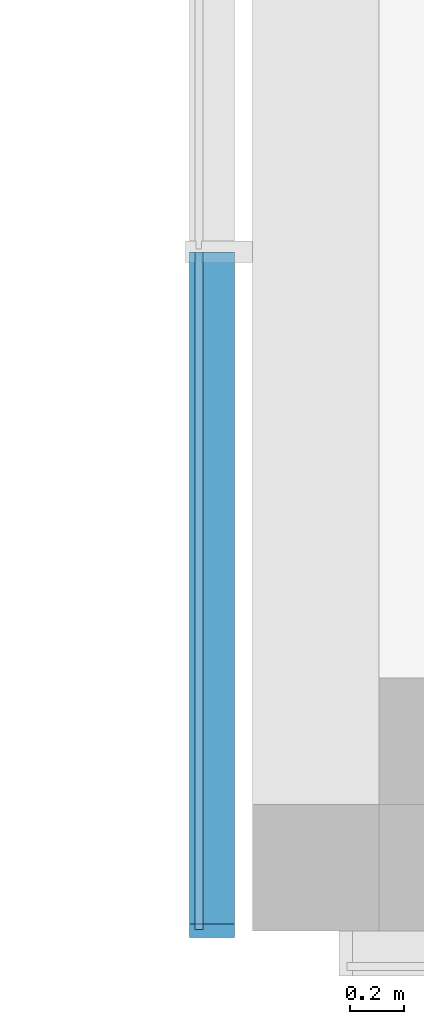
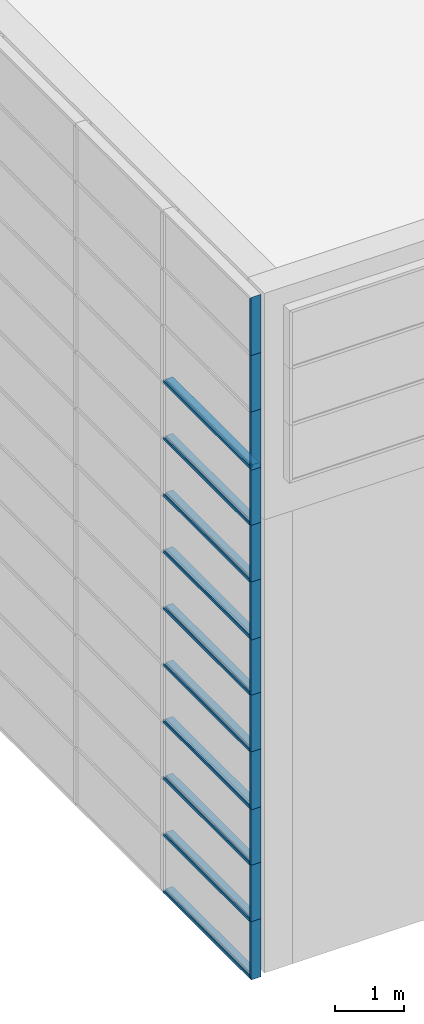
# One storey, part 6 of 105: 25 building element parts, 4 elements without a shape of their own.
"""IFC4 building model written with IfcOpenShell, lengths in millimetres."""

from ifc_helpers import new_model, entity, si_unit, converted_unit, derived_unit, direction, frame, origin_with_axes, place, context, subcontext, project, spatial, triangles, material, element, aggregate, save


model = new_model("IFC4")

# Units and contexts
model_context = context("Model", 3, precision=1e-05, world=origin_with_axes(), true_north=direction((0.0, 1.0)))
body_context = subcontext(model_context, "Body", "Model", "MODEL_VIEW")
ifc_project = project(units=[si_unit("LENGTHUNIT", "METRE", prefix="MILLI"), si_unit("AREAUNIT", "SQUARE_METRE"), si_unit("VOLUMEUNIT", "CUBIC_METRE"), converted_unit("PLANEANGLEUNIT", "DEGREE", entity("IfcLengthMeasure", 0.017453), si_unit("PLANEANGLEUNIT", "RADIAN"), dimensions=[0, 0, 0, 0, 0, 0, 0]), si_unit("SOLIDANGLEUNIT", "STERADIAN"), si_unit("MASSUNIT", "GRAM"), si_unit("TIMEUNIT", "SECOND"), si_unit("THERMODYNAMICTEMPERATUREUNIT", "DEGREE_CELSIUS"), si_unit("LUMINOUSINTENSITYUNIT", "LUMEN"), si_unit("POWERUNIT", "WATT"), derived_unit("THERMALTRANSMITTANCEUNIT", [(si_unit("POWERUNIT", "WATT"), 1), (si_unit("THERMODYNAMICTEMPERATUREUNIT", "KELVIN"), -1), (si_unit("AREAUNIT", "SQUARE_METRE"), -1)])], contexts=[model_context])

# Site, building, storey
site_placement = place(None, origin_with_axes())
site = spatial("IfcSite", under=ifc_project, at=site_placement, Name="Default Site", CompositionType="ELEMENT")
building_placement = place(site_placement, origin_with_axes())
building = spatial("IfcBuilding", under=site, at=building_placement, Name="Default Building", CompositionType="ELEMENT")
storey_placement = place(building_placement, origin_with_axes())
storey = spatial("IfcBuildingStorey", under=building, at=storey_placement, Name="OG - Story", CompositionType="ELEMENT", Elevation=0.0)

# Curtain wall, building element parts
curtain_wall_1_placement = place(storey_placement, origin_with_axes())
curtain_wall_1 = element("IfcCurtainWall", 1, at=curtain_wall_1_placement, inside=storey, Name="Fassade-003", PredefinedType="NOTDEFINED")
ifc_material = material(Name="Blech")
building_element_part_1_placement = place(curtain_wall_1_placement, frame((31551.391327, -51326.104944, 0.0), z_axis=(0.0, 0.0, 1.0), x_axis=(1.0, 0.0, 0.0)))
building_element_part_1 = element("IfcBuildingElementPart", 2, at=building_element_part_1_placement, material=ifc_material, Name="Blech", PredefinedType="NOTDEFINED", context=body_context, shape_type="Tessellation", body=[
    triangles([(15.0, 1263.158, 25.0), (133.0, 1263.158, 25.0), (15.0, 1263.158, 5.0), (133.0, 1263.158, -24.999), (-14.999, 1263.158, 5.0), (-34.999, 1263.158, -24.999), (-34.999, 1263.158, 25.0), (-14.999, 1263.158, 25.0), (15.0, -1258.157, 5.0), (15.0, -1238.157, 25.0), (133.0, -1238.157, 25.0), (133.0, -1288.157, -24.999), (-34.999, -1288.157, -24.999), (-34.999, -1238.157, 25.0), (-14.999, -1238.157, 25.0), (-14.999, -1258.157, 5.0)], [[1, 2, 3], [3, 2, 4], [3, 4, 5], [5, 4, 6], [5, 6, 7], [5, 7, 8], [3, 9, 10], [3, 10, 1], [10, 11, 2], [10, 2, 1], [2, 11, 12], [2, 12, 4], [4, 12, 13], [4, 13, 6], [6, 13, 14], [6, 14, 7], [8, 7, 14], [8, 14, 15], [15, 16, 5], [15, 5, 8], [5, 16, 9], [5, 9, 3], [16, 9, 12], [16, 12, 13], [16, 13, 14], [16, 14, 15], [11, 12, 9], [11, 9, 10]], closed=False),
])
building_element_part_2_placement = place(curtain_wall_1_placement, frame((31551.391327, -51326.104944, 0.0), z_axis=(0.0, 0.0, 1.0), x_axis=(1.0, 0.0, 0.0)))
building_element_part_2 = element("IfcBuildingElementPart", 3, at=building_element_part_2_placement, material=ifc_material, Name="Blech", PredefinedType="NOTDEFINED", context=body_context, shape_type="Tessellation", body=[
    triangles([(15.0, -1238.157, 1000.0), (133.0, -1238.157, 1000.0), (15.0, -1258.157, 1000.0), (133.0, -1288.157, 1000.0), (-14.999, -1258.157, 1000.0), (-34.999, -1288.157, 1000.0), (-14.999, -1238.157, 1000.0), (-34.999, -1238.157, 1000.0), (15.0, -1258.157, 5.0), (-14.999, -1258.157, 5.0), (-14.999, -1238.157, 25.0), (-34.999, -1238.157, 25.0), (-34.999, -1288.157, -24.999), (133.0, -1288.157, -24.999), (133.0, -1238.157, 25.0), (15.0, -1238.157, 25.0)], [[1, 2, 3], [3, 2, 4], [3, 4, 5], [5, 4, 6], [5, 6, 7], [7, 6, 8], [5, 3, 9], [5, 9, 10], [11, 7, 5], [11, 5, 10], [7, 11, 12], [7, 12, 8], [6, 8, 12], [6, 12, 13], [4, 6, 13], [4, 13, 14], [2, 4, 14], [2, 14, 15], [16, 1, 2], [16, 2, 15], [3, 1, 16], [3, 16, 9], [16, 15, 9], [9, 15, 14], [9, 14, 10], [10, 14, 13], [10, 13, 12], [10, 12, 11]], closed=False),
])
building_element_part_3_placement = place(curtain_wall_1_placement, frame((31551.391327, -51326.104944, 0.0), z_axis=(0.0, 0.0, 1.0), x_axis=(1.0, 0.0, 0.0)))
building_element_part_3 = element("IfcBuildingElementPart", 4, at=building_element_part_3_placement, material=ifc_material, Name="Blech", PredefinedType="NOTDEFINED", context=body_context, shape_type="Tessellation", body=[
    triangles([(-14.999, 1263.158, 1025.0), (-34.999, 1263.158, 1025.0), (-14.999, 1263.158, 1005.0), (-14.999, 1263.158, 995.0), (15.0, 1263.158, 1005.0), (133.0, 1263.158, 1025.0), (15.0, 1263.158, 1025.0), (-34.999, 1263.158, 975.0), (-14.999, 1263.158, 975.0), (15.0, 1263.158, 995.0), (15.0, 1263.158, 975.0), (133.0, 1263.158, 975.0), (15.0, -1238.157, 995.0), (-14.999, -1238.157, 995.0), (-14.999, -1238.157, 975.0), (-34.999, -1238.157, 975.0), (-34.999, -1238.157, 1025.0), (-14.999, -1238.157, 1025.0), (-14.999, -1238.157, 1005.0), (15.0, -1238.157, 1005.0), (15.0, -1238.157, 1025.0), (133.0, -1238.157, 1025.0), (133.0, -1238.157, 975.0), (15.0, -1238.157, 975.0)], [[1, 2, 3], [3, 2, 4], [3, 4, 5], [5, 4, 6], [5, 6, 7], [8, 9, 4], [8, 4, 2], [6, 4, 10], [6, 10, 11], [6, 11, 12], [10, 13, 14], [10, 14, 4], [4, 14, 15], [4, 15, 9], [15, 16, 8], [15, 8, 9], [2, 8, 16], [2, 16, 17], [18, 1, 2], [18, 2, 17], [1, 18, 19], [1, 19, 3], [5, 3, 19], [5, 19, 20], [7, 5, 20], [7, 20, 21], [7, 21, 22], [7, 22, 6], [12, 6, 22], [12, 22, 23], [11, 12, 23], [11, 23, 24], [11, 24, 13], [11, 13, 10], [21, 22, 20], [20, 22, 13], [20, 13, 19], [19, 13, 14], [19, 14, 17], [17, 14, 15], [17, 15, 16], [23, 24, 13], [23, 13, 22], [19, 17, 18]], closed=False),
])
building_element_part_4_placement = place(curtain_wall_1_placement, frame((31551.391327, -51326.104944, 0.0), z_axis=(0.0, 0.0, 1.0), x_axis=(1.0, 0.0, 0.0)))
building_element_part_4 = element("IfcBuildingElementPart", 5, at=building_element_part_4_placement, material=ifc_material, Name="Blech", PredefinedType="NOTDEFINED", context=body_context, shape_type="Tessellation", body=[
    triangles([(15.0, -1238.157, 2000.0), (133.0, -1238.157, 2000.0), (15.0, -1258.157, 2000.0), (133.0, -1288.157, 2000.0), (-14.999, -1258.157, 2000.0), (-34.999, -1288.157, 2000.0), (-14.999, -1238.157, 2000.0), (-34.999, -1238.157, 2000.0), (15.0, -1258.157, 1000.0), (-14.999, -1258.157, 1000.0), (-14.999, -1238.157, 1000.0), (-34.999, -1238.157, 1000.0), (-34.999, -1288.157, 1000.0), (133.0, -1288.157, 1000.0), (133.0, -1238.157, 1000.0), (15.0, -1238.157, 1000.0)], [[1, 2, 3], [3, 2, 4], [3, 4, 5], [5, 4, 6], [5, 6, 7], [7, 6, 8], [5, 3, 9], [5, 9, 10], [11, 7, 5], [11, 5, 10], [7, 11, 12], [7, 12, 8], [13, 6, 8], [13, 8, 12], [14, 4, 6], [14, 6, 13], [15, 2, 4], [15, 4, 14], [16, 1, 2], [16, 2, 15], [3, 1, 16], [3, 16, 9], [16, 15, 9], [9, 15, 14], [9, 14, 10], [10, 14, 13], [10, 13, 11], [11, 13, 12]], closed=False),
])
building_element_part_5_placement = place(curtain_wall_1_placement, frame((31551.391327, -51326.104944, 0.0), z_axis=(0.0, 0.0, 1.0), x_axis=(1.0, 0.0, 0.0)))
building_element_part_5 = element("IfcBuildingElementPart", 6, at=building_element_part_5_placement, material=ifc_material, Name="Blech", PredefinedType="NOTDEFINED", context=body_context, shape_type="Tessellation", body=[
    triangles([(-14.999, 1263.158, 2025.0), (-34.999, 1263.158, 2025.0), (-14.999, 1263.158, 2005.0), (-14.999, 1263.158, 1995.0), (15.0, 1263.158, 2005.0), (133.0, 1263.158, 2025.0), (15.0, 1263.158, 2025.0), (-34.999, 1263.158, 1975.0), (-14.999, 1263.158, 1975.0), (15.0, 1263.158, 1995.0), (15.0, 1263.158, 1975.0), (133.0, 1263.158, 1975.0), (15.0, -1238.157, 1995.0), (-14.999, -1238.157, 1995.0), (-14.999, -1238.157, 1975.0), (-34.999, -1238.157, 1975.0), (-34.999, -1238.157, 2025.0), (-14.999, -1238.157, 2025.0), (-14.999, -1238.157, 2005.0), (15.0, -1238.157, 2005.0), (15.0, -1238.157, 2025.0), (133.0, -1238.157, 2025.0), (133.0, -1238.157, 1975.0), (15.0, -1238.157, 1975.0)], [[1, 2, 3], [3, 2, 4], [3, 4, 5], [5, 4, 6], [5, 6, 7], [8, 9, 4], [8, 4, 2], [6, 4, 10], [6, 10, 11], [6, 11, 12], [10, 13, 14], [10, 14, 4], [4, 14, 15], [4, 15, 9], [15, 16, 8], [15, 8, 9], [2, 8, 16], [2, 16, 17], [18, 1, 2], [18, 2, 17], [1, 18, 19], [1, 19, 3], [5, 3, 19], [5, 19, 20], [7, 5, 20], [7, 20, 21], [7, 21, 22], [7, 22, 6], [12, 6, 22], [12, 22, 23], [11, 12, 23], [11, 23, 24], [11, 24, 13], [11, 13, 10], [21, 22, 20], [20, 22, 13], [20, 13, 19], [19, 13, 14], [19, 14, 17], [17, 14, 15], [17, 15, 16], [23, 24, 13], [23, 13, 22], [19, 17, 18]], closed=False),
])
building_element_part_6_placement = place(curtain_wall_1_placement, frame((31551.391327, -51326.104944, 0.0), z_axis=(0.0, 0.0, 1.0), x_axis=(1.0, 0.0, 0.0)))
building_element_part_6 = element("IfcBuildingElementPart", 7, at=building_element_part_6_placement, material=ifc_material, Name="Blech", PredefinedType="NOTDEFINED", context=body_context, shape_type="Tessellation", body=[
    triangles([(-14.999, 1263.158, 2995.0), (15.0, 1263.158, 2995.0), (133.0, 1263.158, 3025.0), (-34.999, 1263.158, 3025.0), (-34.999, 1263.158, 2975.0), (-14.999, 1263.158, 2975.0), (15.0, 1263.158, 2975.0), (133.0, 1263.158, 2975.0), (15.0, -1258.157, 2995.0), (-14.999, -1258.157, 2995.0), (-14.999, -1238.157, 2975.0), (-34.999, -1238.157, 2975.0), (-34.999, -1288.157, 3025.0), (133.0, -1288.157, 3025.0), (133.0, -1238.157, 2975.0), (15.0, -1238.157, 2975.0)], [[1, 2, 3], [1, 3, 4], [1, 4, 5], [1, 5, 6], [7, 8, 3], [7, 3, 2], [1, 2, 9], [1, 9, 10], [11, 6, 1], [11, 1, 10], [6, 11, 12], [6, 12, 5], [4, 5, 12], [4, 12, 13], [3, 4, 13], [3, 13, 14], [8, 3, 14], [8, 14, 15], [16, 7, 8], [16, 8, 15], [2, 7, 16], [2, 16, 9], [10, 9, 14], [10, 14, 13], [10, 13, 12], [10, 12, 11], [16, 15, 14], [16, 14, 9]], closed=False),
])
building_element_part_7_placement = place(curtain_wall_1_placement, frame((31551.391327, -51326.104944, 0.0), z_axis=(0.0, 0.0, 1.0), x_axis=(1.0, 0.0, 0.0)))
building_element_part_7 = element("IfcBuildingElementPart", 8, at=building_element_part_7_placement, material=ifc_material, Name="Blech", PredefinedType="NOTDEFINED", context=body_context, shape_type="Tessellation", body=[
    triangles([(-14.999, -1258.157, 2995.0), (15.0, -1258.157, 2995.0), (133.0, -1288.157, 3025.0), (-34.999, -1288.157, 3025.0), (-34.999, -1238.157, 2975.0), (-14.999, -1238.157, 2975.0), (15.0, -1238.157, 2975.0), (133.0, -1238.157, 2975.0), (15.0, -1258.157, 2000.0), (-14.999, -1258.157, 2000.0), (-14.999, -1238.157, 2000.0), (-34.999, -1238.157, 2000.0), (-34.999, -1288.157, 2000.0), (133.0, -1288.157, 2000.0), (133.0, -1238.157, 2000.0), (15.0, -1238.157, 2000.0)], [[1, 2, 3], [1, 3, 4], [1, 4, 5], [1, 5, 6], [7, 8, 3], [7, 3, 2], [1, 2, 9], [1, 9, 10], [11, 6, 1], [11, 1, 10], [6, 11, 12], [6, 12, 5], [13, 4, 5], [13, 5, 12], [14, 3, 4], [14, 4, 13], [15, 8, 3], [15, 3, 14], [16, 7, 8], [16, 8, 15], [2, 7, 16], [2, 16, 9], [16, 15, 9], [9, 15, 14], [9, 14, 10], [10, 14, 13], [10, 13, 11], [11, 13, 12]], closed=False),
])
aggregate(curtain_wall_1, [building_element_part_1, building_element_part_2, building_element_part_3, building_element_part_4, building_element_part_5, building_element_part_6, building_element_part_7])

curtain_wall_2_placement = place(storey_placement, origin_with_axes())
curtain_wall_2 = element("IfcCurtainWall", 9, at=curtain_wall_2_placement, inside=storey, Name="Fassade-003", PredefinedType="NOTDEFINED")
building_element_part_8_placement = place(curtain_wall_2_placement, frame((31551.391327, -51326.104944, 3000.0), z_axis=(0.0, 0.0, 1.0), x_axis=(1.0, 0.0, 0.0)))
building_element_part_8 = element("IfcBuildingElementPart", 10, at=building_element_part_8_placement, material=ifc_material, Name="Blech", PredefinedType="NOTDEFINED", context=body_context, shape_type="Tessellation", body=[
    triangles([(15.0, 1263.158, 25.0), (133.0, 1263.158, 25.0), (15.0, 1263.158, 5.0), (133.0, 1263.158, -24.999), (-14.999, 1263.158, 5.0), (-34.999, 1263.158, -24.999), (-34.999, 1263.158, 25.0), (-14.999, 1263.158, 25.0), (15.0, -1258.157, 5.0), (15.0, -1238.157, 25.0), (133.0, -1238.157, 25.0), (133.0, -1288.157, -24.999), (-34.999, -1288.157, -24.999), (-34.999, -1238.157, 25.0), (-14.999, -1238.157, 25.0), (-14.999, -1258.157, 5.0)], [[1, 2, 3], [3, 2, 4], [3, 4, 5], [5, 4, 6], [5, 6, 7], [5, 7, 8], [3, 9, 10], [3, 10, 1], [10, 11, 2], [10, 2, 1], [2, 11, 12], [2, 12, 4], [4, 12, 13], [4, 13, 6], [6, 13, 14], [6, 14, 7], [8, 7, 14], [8, 14, 15], [15, 16, 5], [15, 5, 8], [5, 16, 9], [5, 9, 3], [16, 9, 12], [16, 12, 13], [16, 13, 14], [16, 14, 15], [11, 12, 9], [11, 9, 10]], closed=False),
])
building_element_part_9_placement = place(curtain_wall_2_placement, frame((31551.391327, -51326.104944, 3000.0), z_axis=(0.0, 0.0, 1.0), x_axis=(1.0, 0.0, 0.0)))
building_element_part_9 = element("IfcBuildingElementPart", 11, at=building_element_part_9_placement, material=ifc_material, Name="Blech", PredefinedType="NOTDEFINED", context=body_context, shape_type="Tessellation", body=[
    triangles([(15.0, -1238.157, 1000.0), (133.0, -1238.157, 1000.0), (15.0, -1258.157, 1000.0), (133.0, -1288.157, 1000.0), (-14.999, -1258.157, 1000.0), (-34.999, -1288.157, 1000.0), (-14.999, -1238.157, 1000.0), (-34.999, -1238.157, 1000.0), (15.0, -1258.157, 5.0), (-14.999, -1258.157, 5.0), (-14.999, -1238.157, 25.0), (-34.999, -1238.157, 25.0), (-34.999, -1288.157, -24.999), (133.0, -1288.157, -24.999), (133.0, -1238.157, 25.0), (15.0, -1238.157, 25.0)], [[1, 2, 3], [3, 2, 4], [3, 4, 5], [5, 4, 6], [5, 6, 7], [7, 6, 8], [5, 3, 9], [5, 9, 10], [11, 7, 5], [11, 5, 10], [7, 11, 12], [7, 12, 8], [6, 8, 12], [6, 12, 13], [4, 6, 13], [4, 13, 14], [2, 4, 14], [2, 14, 15], [16, 1, 2], [16, 2, 15], [3, 1, 16], [3, 16, 9], [16, 15, 9], [9, 15, 14], [9, 14, 10], [10, 14, 13], [10, 13, 12], [10, 12, 11]], closed=False),
])
building_element_part_10_placement = place(curtain_wall_2_placement, frame((31551.391327, -51326.104944, 3000.0), z_axis=(0.0, 0.0, 1.0), x_axis=(1.0, 0.0, 0.0)))
building_element_part_10 = element("IfcBuildingElementPart", 12, at=building_element_part_10_placement, material=ifc_material, Name="Blech", PredefinedType="NOTDEFINED", context=body_context, shape_type="Tessellation", body=[
    triangles([(-14.999, 1263.158, 1025.0), (-34.999, 1263.158, 1025.0), (-14.999, 1263.158, 1005.0), (-14.999, 1263.158, 995.0), (15.0, 1263.158, 1005.0), (133.0, 1263.158, 1025.0), (15.0, 1263.158, 1025.0), (-34.999, 1263.158, 975.0), (-14.999, 1263.158, 975.0), (15.0, 1263.158, 995.0), (15.0, 1263.158, 975.0), (133.0, 1263.158, 975.0), (15.0, -1238.157, 995.0), (-14.999, -1238.157, 995.0), (-14.999, -1238.157, 975.0), (-34.999, -1238.157, 975.0), (-34.999, -1238.157, 1025.0), (-14.999, -1238.157, 1025.0), (-14.999, -1238.157, 1005.0), (15.0, -1238.157, 1005.0), (15.0, -1238.157, 1025.0), (133.0, -1238.157, 1025.0), (133.0, -1238.157, 975.0), (15.0, -1238.157, 975.0)], [[1, 2, 3], [3, 2, 4], [3, 4, 5], [5, 4, 6], [5, 6, 7], [8, 9, 4], [8, 4, 2], [6, 4, 10], [6, 10, 11], [6, 11, 12], [10, 13, 14], [10, 14, 4], [4, 14, 15], [4, 15, 9], [15, 16, 8], [15, 8, 9], [2, 8, 16], [2, 16, 17], [18, 1, 2], [18, 2, 17], [1, 18, 19], [1, 19, 3], [5, 3, 19], [5, 19, 20], [7, 5, 20], [7, 20, 21], [7, 21, 22], [7, 22, 6], [12, 6, 22], [12, 22, 23], [11, 12, 23], [11, 23, 24], [11, 24, 13], [11, 13, 10], [21, 22, 20], [20, 22, 13], [20, 13, 19], [19, 13, 14], [19, 14, 17], [17, 14, 15], [17, 15, 16], [23, 24, 13], [23, 13, 22], [19, 17, 18]], closed=False),
])
building_element_part_11_placement = place(curtain_wall_2_placement, frame((31551.391327, -51326.104944, 3000.0), z_axis=(0.0, 0.0, 1.0), x_axis=(1.0, 0.0, 0.0)))
building_element_part_11 = element("IfcBuildingElementPart", 13, at=building_element_part_11_placement, material=ifc_material, Name="Blech", PredefinedType="NOTDEFINED", context=body_context, shape_type="Tessellation", body=[
    triangles([(15.0, -1238.157, 2000.0), (133.0, -1238.157, 2000.0), (15.0, -1258.157, 2000.0), (133.0, -1288.157, 2000.0), (-14.999, -1258.157, 2000.0), (-34.999, -1288.157, 2000.0), (-14.999, -1238.157, 2000.0), (-34.999, -1238.157, 2000.0), (15.0, -1258.157, 1000.0), (-14.999, -1258.157, 1000.0), (-14.999, -1238.157, 1000.0), (-34.999, -1238.157, 1000.0), (-34.999, -1288.157, 1000.0), (133.0, -1288.157, 1000.0), (133.0, -1238.157, 1000.0), (15.0, -1238.157, 1000.0)], [[1, 2, 3], [3, 2, 4], [3, 4, 5], [5, 4, 6], [5, 6, 7], [7, 6, 8], [5, 3, 9], [5, 9, 10], [11, 7, 5], [11, 5, 10], [7, 11, 12], [7, 12, 8], [13, 6, 8], [13, 8, 12], [14, 4, 6], [14, 6, 13], [15, 2, 4], [15, 4, 14], [16, 1, 2], [16, 2, 15], [3, 1, 16], [3, 16, 9], [16, 15, 9], [9, 15, 14], [9, 14, 10], [10, 14, 13], [10, 13, 11], [11, 13, 12]], closed=False),
])
building_element_part_12_placement = place(curtain_wall_2_placement, frame((31551.391327, -51326.104944, 3000.0), z_axis=(0.0, 0.0, 1.0), x_axis=(1.0, 0.0, 0.0)))
building_element_part_12 = element("IfcBuildingElementPart", 14, at=building_element_part_12_placement, material=ifc_material, Name="Blech", PredefinedType="NOTDEFINED", context=body_context, shape_type="Tessellation", body=[
    triangles([(-14.999, 1263.158, 2025.0), (-34.999, 1263.158, 2025.0), (-14.999, 1263.158, 2005.0), (-14.999, 1263.158, 1995.0), (15.0, 1263.158, 2005.0), (133.0, 1263.158, 2025.0), (15.0, 1263.158, 2025.0), (-34.999, 1263.158, 1975.0), (-14.999, 1263.158, 1975.0), (15.0, 1263.158, 1995.0), (15.0, 1263.158, 1975.0), (133.0, 1263.158, 1975.0), (15.0, -1238.157, 1995.0), (-14.999, -1238.157, 1995.0), (-14.999, -1238.157, 1975.0), (-34.999, -1238.157, 1975.0), (-34.999, -1238.157, 2025.0), (-14.999, -1238.157, 2025.0), (-14.999, -1238.157, 2005.0), (15.0, -1238.157, 2005.0), (15.0, -1238.157, 2025.0), (133.0, -1238.157, 2025.0), (133.0, -1238.157, 1975.0), (15.0, -1238.157, 1975.0)], [[1, 2, 3], [3, 2, 4], [3, 4, 5], [5, 4, 6], [5, 6, 7], [8, 9, 4], [8, 4, 2], [6, 4, 10], [6, 10, 11], [6, 11, 12], [10, 13, 14], [10, 14, 4], [4, 14, 15], [4, 15, 9], [15, 16, 8], [15, 8, 9], [2, 8, 16], [2, 16, 17], [18, 1, 2], [18, 2, 17], [1, 18, 19], [1, 19, 3], [5, 3, 19], [5, 19, 20], [7, 5, 20], [7, 20, 21], [7, 21, 22], [7, 22, 6], [12, 6, 22], [12, 22, 23], [11, 12, 23], [11, 23, 24], [11, 24, 13], [11, 13, 10], [21, 22, 20], [20, 22, 13], [20, 13, 19], [19, 13, 14], [19, 14, 17], [17, 14, 15], [17, 15, 16], [23, 24, 13], [23, 13, 22], [19, 17, 18]], closed=False),
])
building_element_part_13_placement = place(curtain_wall_2_placement, frame((31551.391327, -51326.104944, 3000.0), z_axis=(0.0, 0.0, 1.0), x_axis=(1.0, 0.0, 0.0)))
building_element_part_13 = element("IfcBuildingElementPart", 15, at=building_element_part_13_placement, material=ifc_material, Name="Blech", PredefinedType="NOTDEFINED", context=body_context, shape_type="Tessellation", body=[
    triangles([(-14.999, 1263.158, 2995.0), (15.0, 1263.158, 2995.0), (133.0, 1263.158, 3025.0), (-34.999, 1263.158, 3025.0), (-34.999, 1263.158, 2975.0), (-14.999, 1263.158, 2975.0), (15.0, 1263.158, 2975.0), (133.0, 1263.158, 2975.0), (15.0, -1258.157, 2995.0), (-14.999, -1258.157, 2995.0), (-14.999, -1238.157, 2975.0), (-34.999, -1238.157, 2975.0), (-34.999, -1288.157, 3025.0), (133.0, -1288.157, 3025.0), (133.0, -1238.157, 2975.0), (15.0, -1238.157, 2975.0)], [[1, 2, 3], [1, 3, 4], [1, 4, 5], [1, 5, 6], [7, 8, 3], [7, 3, 2], [1, 2, 9], [1, 9, 10], [11, 6, 1], [11, 1, 10], [6, 11, 12], [6, 12, 5], [4, 5, 12], [4, 12, 13], [3, 4, 13], [3, 13, 14], [8, 3, 14], [8, 14, 15], [16, 7, 8], [16, 8, 15], [2, 7, 16], [2, 16, 9], [10, 9, 14], [10, 14, 13], [10, 13, 12], [10, 12, 11], [16, 15, 14], [16, 14, 9]], closed=False),
])
building_element_part_14_placement = place(curtain_wall_2_placement, frame((31551.391327, -51326.104944, 3000.0), z_axis=(0.0, 0.0, 1.0), x_axis=(1.0, 0.0, 0.0)))
building_element_part_14 = element("IfcBuildingElementPart", 16, at=building_element_part_14_placement, material=ifc_material, Name="Blech", PredefinedType="NOTDEFINED", context=body_context, shape_type="Tessellation", body=[
    triangles([(-14.999, -1258.157, 2995.0), (15.0, -1258.157, 2995.0), (133.0, -1288.157, 3025.0), (-34.999, -1288.157, 3025.0), (-34.999, -1238.157, 2975.0), (-14.999, -1238.157, 2975.0), (15.0, -1238.157, 2975.0), (133.0, -1238.157, 2975.0), (15.0, -1258.157, 2000.0), (-14.999, -1258.157, 2000.0), (-14.999, -1238.157, 2000.0), (-34.999, -1238.157, 2000.0), (-34.999, -1288.157, 2000.0), (133.0, -1288.157, 2000.0), (133.0, -1238.157, 2000.0), (15.0, -1238.157, 2000.0)], [[1, 2, 3], [1, 3, 4], [1, 4, 5], [1, 5, 6], [7, 8, 3], [7, 3, 2], [1, 2, 9], [1, 9, 10], [11, 6, 1], [11, 1, 10], [6, 11, 12], [6, 12, 5], [13, 4, 5], [13, 5, 12], [14, 3, 4], [14, 4, 13], [15, 8, 3], [15, 3, 14], [16, 7, 8], [16, 8, 15], [2, 7, 16], [2, 16, 9], [16, 15, 9], [9, 15, 14], [9, 14, 10], [10, 14, 13], [10, 13, 11], [11, 13, 12]], closed=False),
])
aggregate(curtain_wall_2, [building_element_part_8, building_element_part_9, building_element_part_10, building_element_part_11, building_element_part_12, building_element_part_13, building_element_part_14])

curtain_wall_3_placement = place(storey_placement, origin_with_axes())
curtain_wall_3 = element("IfcCurtainWall", 17, at=curtain_wall_3_placement, inside=storey, Name="Fassade-003", PredefinedType="NOTDEFINED")
building_element_part_15_placement = place(curtain_wall_3_placement, frame((31551.391327, -51326.104944, 6000.0), z_axis=(0.0, 0.0, 1.0), x_axis=(1.0, 0.0, 0.0)))
building_element_part_15 = element("IfcBuildingElementPart", 18, at=building_element_part_15_placement, material=ifc_material, Name="Blech", PredefinedType="NOTDEFINED", context=body_context, shape_type="Tessellation", body=[
    triangles([(15.0, 1263.158, 25.0), (133.0, 1263.158, 25.0), (15.0, 1263.158, 5.0), (133.0, 1263.158, -24.999), (-14.999, 1263.158, 5.0), (-34.999, 1263.158, -24.999), (-34.999, 1263.158, 25.0), (-14.999, 1263.158, 25.0), (15.0, -1258.157, 5.0), (15.0, -1238.157, 25.0), (133.0, -1238.157, 25.0), (133.0, -1288.157, -24.999), (-34.999, -1288.157, -24.999), (-34.999, -1238.157, 25.0), (-14.999, -1238.157, 25.0), (-14.999, -1258.157, 5.0)], [[1, 2, 3], [3, 2, 4], [3, 4, 5], [5, 4, 6], [5, 6, 7], [5, 7, 8], [3, 9, 10], [3, 10, 1], [10, 11, 2], [10, 2, 1], [2, 11, 12], [2, 12, 4], [4, 12, 13], [4, 13, 6], [6, 13, 14], [6, 14, 7], [8, 7, 14], [8, 14, 15], [15, 16, 5], [15, 5, 8], [5, 16, 9], [5, 9, 3], [16, 9, 12], [16, 12, 13], [16, 13, 14], [16, 14, 15], [11, 12, 9], [11, 9, 10]], closed=False),
])
building_element_part_16_placement = place(curtain_wall_3_placement, frame((31551.391327, -51326.104944, 6000.0), z_axis=(0.0, 0.0, 1.0), x_axis=(1.0, 0.0, 0.0)))
building_element_part_16 = element("IfcBuildingElementPart", 19, at=building_element_part_16_placement, material=ifc_material, Name="Blech", PredefinedType="NOTDEFINED", context=body_context, shape_type="Tessellation", body=[
    triangles([(15.0, -1238.157, 1000.0), (133.0, -1238.157, 1000.0), (15.0, -1258.157, 1000.0), (133.0, -1288.157, 1000.0), (-14.999, -1258.157, 1000.0), (-34.999, -1288.157, 1000.0), (-14.999, -1238.157, 1000.0), (-34.999, -1238.157, 1000.0), (15.0, -1258.157, 5.0), (-14.999, -1258.157, 5.0), (-14.999, -1238.157, 25.0), (-34.999, -1238.157, 25.0), (-34.999, -1288.157, -24.999), (133.0, -1288.157, -24.999), (133.0, -1238.157, 25.0), (15.0, -1238.157, 25.0)], [[1, 2, 3], [3, 2, 4], [3, 4, 5], [5, 4, 6], [5, 6, 7], [7, 6, 8], [5, 3, 9], [5, 9, 10], [11, 7, 5], [11, 5, 10], [7, 11, 12], [7, 12, 8], [6, 8, 12], [6, 12, 13], [4, 6, 13], [4, 13, 14], [2, 4, 14], [2, 14, 15], [16, 1, 2], [16, 2, 15], [3, 1, 16], [3, 16, 9], [16, 15, 9], [9, 15, 14], [9, 14, 10], [10, 14, 13], [10, 13, 12], [10, 12, 11]], closed=False),
])
building_element_part_17_placement = place(curtain_wall_3_placement, frame((31551.391327, -51326.104944, 6000.0), z_axis=(0.0, 0.0, 1.0), x_axis=(1.0, 0.0, 0.0)))
building_element_part_17 = element("IfcBuildingElementPart", 20, at=building_element_part_17_placement, material=ifc_material, Name="Blech", PredefinedType="NOTDEFINED", context=body_context, shape_type="Tessellation", body=[
    triangles([(-14.999, 1263.158, 1025.0), (-34.999, 1263.158, 1025.0), (-14.999, 1263.158, 1005.0), (-14.999, 1263.158, 995.0), (15.0, 1263.158, 1005.0), (133.0, 1263.158, 1025.0), (15.0, 1263.158, 1025.0), (-34.999, 1263.158, 975.0), (-14.999, 1263.158, 975.0), (15.0, 1263.158, 995.0), (15.0, 1263.158, 975.0), (133.0, 1263.158, 975.0), (15.0, -1238.157, 995.0), (-14.999, -1238.157, 995.0), (-14.999, -1238.157, 975.0), (-34.999, -1238.157, 975.0), (-34.999, -1238.157, 1025.0), (-14.999, -1238.157, 1025.0), (-14.999, -1238.157, 1005.0), (15.0, -1238.157, 1005.0), (15.0, -1238.157, 1025.0), (133.0, -1238.157, 1025.0), (133.0, -1238.157, 975.0), (15.0, -1238.157, 975.0)], [[1, 2, 3], [3, 2, 4], [3, 4, 5], [5, 4, 6], [5, 6, 7], [8, 9, 4], [8, 4, 2], [6, 4, 10], [6, 10, 11], [6, 11, 12], [10, 13, 14], [10, 14, 4], [4, 14, 15], [4, 15, 9], [15, 16, 8], [15, 8, 9], [2, 8, 16], [2, 16, 17], [18, 1, 2], [18, 2, 17], [1, 18, 19], [1, 19, 3], [5, 3, 19], [5, 19, 20], [7, 5, 20], [7, 20, 21], [7, 21, 22], [7, 22, 6], [12, 6, 22], [12, 22, 23], [11, 12, 23], [11, 23, 24], [11, 24, 13], [11, 13, 10], [21, 22, 20], [20, 22, 13], [20, 13, 19], [19, 13, 14], [19, 14, 17], [17, 14, 15], [17, 15, 16], [23, 24, 13], [23, 13, 22], [19, 17, 18]], closed=False),
])
building_element_part_18_placement = place(curtain_wall_3_placement, frame((31551.391327, -51326.104944, 6000.0), z_axis=(0.0, 0.0, 1.0), x_axis=(1.0, 0.0, 0.0)))
building_element_part_18 = element("IfcBuildingElementPart", 21, at=building_element_part_18_placement, material=ifc_material, Name="Blech", PredefinedType="NOTDEFINED", context=body_context, shape_type="Tessellation", body=[
    triangles([(15.0, -1238.157, 2000.0), (133.0, -1238.157, 2000.0), (15.0, -1258.157, 2000.0), (133.0, -1288.157, 2000.0), (-14.999, -1258.157, 2000.0), (-34.999, -1288.157, 2000.0), (-14.999, -1238.157, 2000.0), (-34.999, -1238.157, 2000.0), (15.0, -1258.157, 1000.0), (-14.999, -1258.157, 1000.0), (-14.999, -1238.157, 1000.0), (-34.999, -1238.157, 1000.0), (-34.999, -1288.157, 1000.0), (133.0, -1288.157, 1000.0), (133.0, -1238.157, 1000.0), (15.0, -1238.157, 1000.0)], [[1, 2, 3], [3, 2, 4], [3, 4, 5], [5, 4, 6], [5, 6, 7], [7, 6, 8], [5, 3, 9], [5, 9, 10], [11, 7, 5], [11, 5, 10], [7, 11, 12], [7, 12, 8], [13, 6, 8], [13, 8, 12], [14, 4, 6], [14, 6, 13], [15, 2, 4], [15, 4, 14], [16, 1, 2], [16, 2, 15], [3, 1, 16], [3, 16, 9], [16, 15, 9], [9, 15, 14], [9, 14, 10], [10, 14, 13], [10, 13, 11], [11, 13, 12]], closed=False),
])
building_element_part_19_placement = place(curtain_wall_3_placement, frame((31551.391327, -51326.104944, 6000.0), z_axis=(0.0, 0.0, 1.0), x_axis=(1.0, 0.0, 0.0)))
building_element_part_19 = element("IfcBuildingElementPart", 22, at=building_element_part_19_placement, material=ifc_material, Name="Blech", PredefinedType="NOTDEFINED", context=body_context, shape_type="Tessellation", body=[
    triangles([(-14.999, 1263.158, 2025.0), (-34.999, 1263.158, 2025.0), (-14.999, 1263.158, 2005.0), (-14.999, 1263.158, 1995.0), (15.0, 1263.158, 2005.0), (133.0, 1263.158, 2025.0), (15.0, 1263.158, 2025.0), (-34.999, 1263.158, 1975.0), (-14.999, 1263.158, 1975.0), (15.0, 1263.158, 1995.0), (15.0, 1263.158, 1975.0), (133.0, 1263.158, 1975.0), (15.0, -1238.157, 1995.0), (-14.999, -1238.157, 1995.0), (-14.999, -1238.157, 1975.0), (-34.999, -1238.157, 1975.0), (-34.999, -1238.157, 2025.0), (-14.999, -1238.157, 2025.0), (-14.999, -1238.157, 2005.0), (15.0, -1238.157, 2005.0), (15.0, -1238.157, 2025.0), (133.0, -1238.157, 2025.0), (133.0, -1238.157, 1975.0), (15.0, -1238.157, 1975.0)], [[1, 2, 3], [3, 2, 4], [3, 4, 5], [5, 4, 6], [5, 6, 7], [8, 9, 4], [8, 4, 2], [6, 4, 10], [6, 10, 11], [6, 11, 12], [10, 13, 14], [10, 14, 4], [4, 14, 15], [4, 15, 9], [15, 16, 8], [15, 8, 9], [2, 8, 16], [2, 16, 17], [18, 1, 2], [18, 2, 17], [1, 18, 19], [1, 19, 3], [5, 3, 19], [5, 19, 20], [7, 5, 20], [7, 20, 21], [7, 21, 22], [7, 22, 6], [12, 6, 22], [12, 22, 23], [11, 12, 23], [11, 23, 24], [11, 24, 13], [11, 13, 10], [21, 22, 20], [20, 22, 13], [20, 13, 19], [19, 13, 14], [19, 14, 17], [17, 14, 15], [17, 15, 16], [23, 24, 13], [23, 13, 22], [19, 17, 18]], closed=False),
])
building_element_part_20_placement = place(curtain_wall_3_placement, frame((31551.391327, -51326.104944, 6000.0), z_axis=(0.0, 0.0, 1.0), x_axis=(1.0, 0.0, 0.0)))
building_element_part_20 = element("IfcBuildingElementPart", 23, at=building_element_part_20_placement, material=ifc_material, Name="Blech", PredefinedType="NOTDEFINED", context=body_context, shape_type="Tessellation", body=[
    triangles([(-14.999, 1263.158, 2995.0), (15.0, 1263.158, 2995.0), (133.0, 1263.158, 3025.0), (-34.999, 1263.158, 3025.0), (-34.999, 1263.158, 2975.0), (-14.999, 1263.158, 2975.0), (15.0, 1263.158, 2975.0), (133.0, 1263.158, 2975.0), (15.0, -1258.157, 2995.0), (-14.999, -1258.157, 2995.0), (-14.999, -1238.157, 2975.0), (-34.999, -1238.157, 2975.0), (-34.999, -1288.157, 3025.0), (133.0, -1288.157, 3025.0), (133.0, -1238.157, 2975.0), (15.0, -1238.157, 2975.0)], [[1, 2, 3], [1, 3, 4], [1, 4, 5], [1, 5, 6], [7, 8, 3], [7, 3, 2], [1, 2, 9], [1, 9, 10], [11, 6, 1], [11, 1, 10], [6, 11, 12], [6, 12, 5], [4, 5, 12], [4, 12, 13], [3, 4, 13], [3, 13, 14], [8, 3, 14], [8, 14, 15], [16, 7, 8], [16, 8, 15], [2, 7, 16], [2, 16, 9], [10, 9, 14], [10, 14, 13], [10, 13, 12], [10, 12, 11], [16, 15, 14], [16, 14, 9]], closed=False),
])
building_element_part_21_placement = place(curtain_wall_3_placement, frame((31551.391327, -51326.104944, 6000.0), z_axis=(0.0, 0.0, 1.0), x_axis=(1.0, 0.0, 0.0)))
building_element_part_21 = element("IfcBuildingElementPart", 24, at=building_element_part_21_placement, material=ifc_material, Name="Blech", PredefinedType="NOTDEFINED", context=body_context, shape_type="Tessellation", body=[
    triangles([(-14.999, -1258.157, 2995.0), (15.0, -1258.157, 2995.0), (133.0, -1288.157, 3025.0), (-34.999, -1288.157, 3025.0), (-34.999, -1238.157, 2975.0), (-14.999, -1238.157, 2975.0), (15.0, -1238.157, 2975.0), (133.0, -1238.157, 2975.0), (15.0, -1258.157, 2000.0), (-14.999, -1258.157, 2000.0), (-14.999, -1238.157, 2000.0), (-34.999, -1238.157, 2000.0), (-34.999, -1288.157, 2000.0), (133.0, -1288.157, 2000.0), (133.0, -1238.157, 2000.0), (15.0, -1238.157, 2000.0)], [[1, 2, 3], [1, 3, 4], [1, 4, 5], [1, 5, 6], [7, 8, 3], [7, 3, 2], [1, 2, 9], [1, 9, 10], [11, 6, 1], [11, 1, 10], [6, 11, 12], [6, 12, 5], [13, 4, 5], [13, 5, 12], [14, 3, 4], [14, 4, 13], [15, 8, 3], [15, 3, 14], [16, 7, 8], [16, 8, 15], [2, 7, 16], [2, 16, 9], [16, 15, 9], [9, 15, 14], [9, 14, 10], [10, 14, 13], [10, 13, 11], [11, 13, 12]], closed=False),
])
aggregate(curtain_wall_3, [building_element_part_15, building_element_part_16, building_element_part_17, building_element_part_18, building_element_part_19, building_element_part_20, building_element_part_21])

curtain_wall_4_placement = place(storey_placement, origin_with_axes())
curtain_wall_4 = element("IfcCurtainWall", 25, at=curtain_wall_4_placement, inside=storey, Name="Fassade-003", PredefinedType="NOTDEFINED")
building_element_part_22_placement = place(curtain_wall_4_placement, frame((31551.391327, -51326.104944, 9000.0), z_axis=(0.0, 0.0, 1.0), x_axis=(1.0, 0.0, 0.0)))
building_element_part_22 = element("IfcBuildingElementPart", 26, at=building_element_part_22_placement, material=ifc_material, Name="Blech", PredefinedType="NOTDEFINED", context=body_context, shape_type="Tessellation", body=[
    triangles([(15.0, 1263.158, 25.0), (133.0, 1263.158, 25.0), (15.0, 1263.158, 5.0), (133.0, 1263.158, -24.999), (-14.999, 1263.158, 5.0), (-34.999, 1263.158, -24.999), (-34.999, 1263.158, 25.0), (-14.999, 1263.158, 25.0), (15.0, -1258.157, 5.0), (15.0, -1238.157, 25.0), (133.0, -1238.157, 25.0), (133.0, -1288.157, -24.999), (-34.999, -1288.157, -24.999), (-34.999, -1238.157, 25.0), (-14.999, -1238.157, 25.0), (-14.999, -1258.157, 5.0)], [[1, 2, 3], [3, 2, 4], [3, 4, 5], [5, 4, 6], [5, 6, 7], [5, 7, 8], [3, 9, 10], [3, 10, 1], [10, 11, 2], [10, 2, 1], [2, 11, 12], [2, 12, 4], [4, 12, 13], [4, 13, 6], [6, 13, 14], [6, 14, 7], [8, 7, 14], [8, 14, 15], [15, 16, 5], [15, 5, 8], [5, 16, 9], [5, 9, 3], [16, 9, 12], [16, 12, 13], [16, 13, 14], [16, 14, 15], [11, 12, 9], [11, 9, 10]], closed=False),
])
building_element_part_23_placement = place(curtain_wall_4_placement, frame((31551.391327, -51326.104944, 9000.0), z_axis=(0.0, 0.0, 1.0), x_axis=(1.0, 0.0, 0.0)))
building_element_part_23 = element("IfcBuildingElementPart", 27, at=building_element_part_23_placement, material=ifc_material, Name="Blech", PredefinedType="NOTDEFINED", context=body_context, shape_type="Tessellation", body=[
    triangles([(15.0, -1238.157, 1000.0), (133.0, -1238.157, 1000.0), (15.0, -1258.157, 1000.0), (133.0, -1288.157, 1000.0), (-14.999, -1258.157, 1000.0), (-34.999, -1288.157, 1000.0), (-14.999, -1238.157, 1000.0), (-34.999, -1238.157, 1000.0), (15.0, -1258.157, 5.0), (-14.999, -1258.157, 5.0), (-14.999, -1238.157, 25.0), (-34.999, -1238.157, 25.0), (-34.999, -1288.157, -24.999), (133.0, -1288.157, -24.999), (133.0, -1238.157, 25.0), (15.0, -1238.157, 25.0)], [[1, 2, 3], [3, 2, 4], [3, 4, 5], [5, 4, 6], [5, 6, 7], [7, 6, 8], [5, 3, 9], [5, 9, 10], [11, 7, 5], [11, 5, 10], [7, 11, 12], [7, 12, 8], [6, 8, 12], [6, 12, 13], [4, 6, 13], [4, 13, 14], [2, 4, 14], [2, 14, 15], [16, 1, 2], [16, 2, 15], [3, 1, 16], [3, 16, 9], [16, 15, 9], [9, 15, 14], [9, 14, 10], [10, 14, 13], [10, 13, 12], [10, 12, 11]], closed=False),
])
building_element_part_24_placement = place(curtain_wall_4_placement, frame((31551.391327, -51326.104944, 9000.0), z_axis=(0.0, 0.0, 1.0), x_axis=(1.0, 0.0, 0.0)))
building_element_part_24 = element("IfcBuildingElementPart", 28, at=building_element_part_24_placement, material=ifc_material, Name="Blech", PredefinedType="NOTDEFINED", context=body_context, shape_type="Tessellation", body=[
    triangles([(15.0, -1238.157, 2000.0), (133.0, -1238.157, 2000.0), (15.0, -1258.157, 2000.0), (133.0, -1288.157, 2000.0), (-14.999, -1258.157, 2000.0), (-34.999, -1288.157, 2000.0), (-14.999, -1238.157, 2000.0), (-34.999, -1238.157, 2000.0), (15.0, -1258.157, 1000.0), (-14.999, -1258.157, 1000.0), (-14.999, -1238.157, 1000.0), (-34.999, -1238.157, 1000.0), (-34.999, -1288.157, 1000.0), (133.0, -1288.157, 1000.0), (133.0, -1238.157, 1000.0), (15.0, -1238.157, 1000.0)], [[1, 2, 3], [3, 2, 4], [3, 4, 5], [5, 4, 6], [5, 6, 7], [7, 6, 8], [5, 3, 9], [5, 9, 10], [11, 7, 5], [11, 5, 10], [7, 11, 12], [7, 12, 8], [13, 6, 8], [13, 8, 12], [14, 4, 6], [14, 6, 13], [15, 2, 4], [15, 4, 14], [16, 1, 2], [16, 2, 15], [3, 1, 16], [3, 16, 9], [16, 15, 9], [9, 15, 14], [9, 14, 10], [10, 14, 13], [10, 13, 11], [11, 13, 12]], closed=False),
])
building_element_part_25_placement = place(curtain_wall_4_placement, frame((31551.391327, -51326.104944, 9000.0), z_axis=(0.0, 0.0, 1.0), x_axis=(1.0, 0.0, 0.0)))
building_element_part_25 = element("IfcBuildingElementPart", 29, at=building_element_part_25_placement, material=ifc_material, Name="Blech", PredefinedType="NOTDEFINED", context=body_context, shape_type="Tessellation", body=[
    triangles([(-14.999, -1258.157, 2995.0), (15.0, -1258.157, 2995.0), (133.0, -1288.157, 3025.0), (-34.999, -1288.157, 3025.0), (-34.999, -1238.157, 2975.0), (-14.999, -1238.157, 2975.0), (15.0, -1238.157, 2975.0), (133.0, -1238.157, 2975.0), (15.0, -1258.157, 2000.0), (-14.999, -1258.157, 2000.0), (-14.999, -1238.157, 2000.0), (-34.999, -1238.157, 2000.0), (-34.999, -1288.157, 2000.0), (133.0, -1288.157, 2000.0), (133.0, -1238.157, 2000.0), (15.0, -1238.157, 2000.0)], [[1, 2, 3], [1, 3, 4], [1, 4, 5], [1, 5, 6], [7, 8, 3], [7, 3, 2], [1, 2, 9], [1, 9, 10], [11, 6, 1], [11, 1, 10], [6, 11, 12], [6, 12, 5], [13, 4, 5], [13, 5, 12], [14, 3, 4], [14, 4, 13], [15, 8, 3], [15, 3, 14], [16, 7, 8], [16, 8, 15], [2, 7, 16], [2, 16, 9], [16, 15, 9], [9, 15, 14], [9, 14, 10], [10, 14, 13], [10, 13, 11], [11, 13, 12]], closed=False),
])
aggregate(curtain_wall_4, [building_element_part_22, building_element_part_23, building_element_part_24, building_element_part_25])

save(model, "model.ifc")
